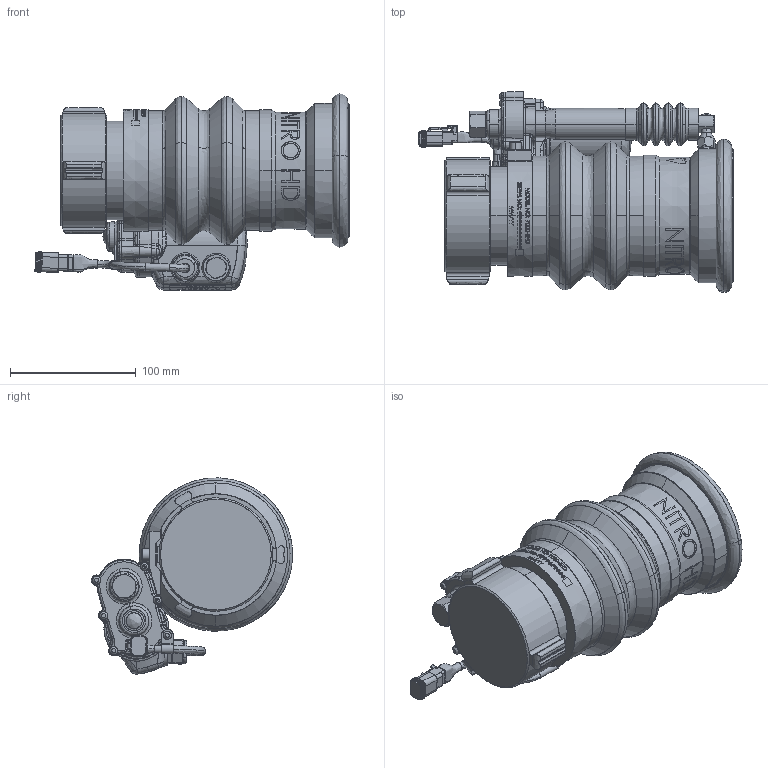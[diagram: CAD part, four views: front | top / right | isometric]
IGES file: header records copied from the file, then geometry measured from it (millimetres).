
Start section: SolidWorks IGES file using analytic representation for surfaces
Global section: file name: Z:\New Product Development\Projects\Project Folders 2016\Stage Gate\Mining Monitor\Engineering\Outputs\Website Documents\7000-EHD Nozzle.IGS; native system: SolidWorks 2017; preprocessor: SolidWorks 2017; author: kprahl; date: 170824.130417; units: inch
Bounding box: 250.24 x 160.27 x 156.35 mm (x, y, z)
Surface area: 157569.3 mm2 (no closed solid volume)
Topology: 0 solids, 0 shells, 2116 faces, 20212 edges, 20182 vertices
Faces by surface type: bspline 1526, revolution 590
